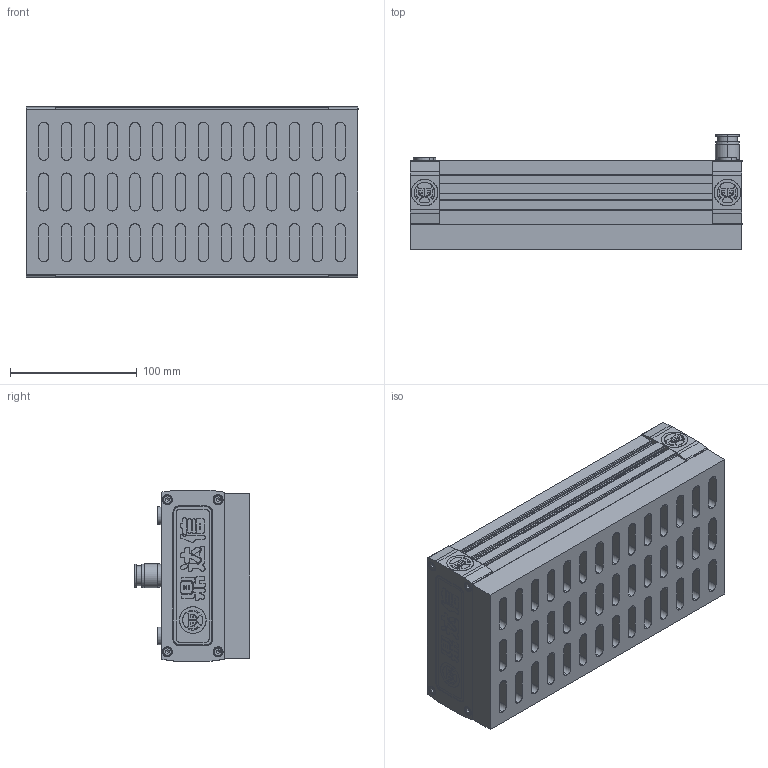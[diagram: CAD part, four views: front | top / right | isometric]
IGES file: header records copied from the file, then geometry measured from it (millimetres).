
Start section: SolidWorks IGES file using analytic representation for surfaces
Bounding box: 262 x 91.2 x 135 mm (x, y, z)
Surface area: 314741.2 mm2 (no closed solid volume)
Topology: 0 solids, 0 shells, 1677 faces, 21806 edges, 21790 vertices
Faces by surface type: bspline 1113, revolution 564
